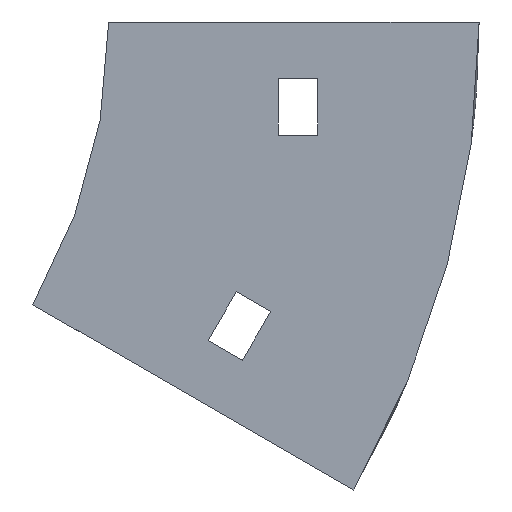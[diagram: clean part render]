
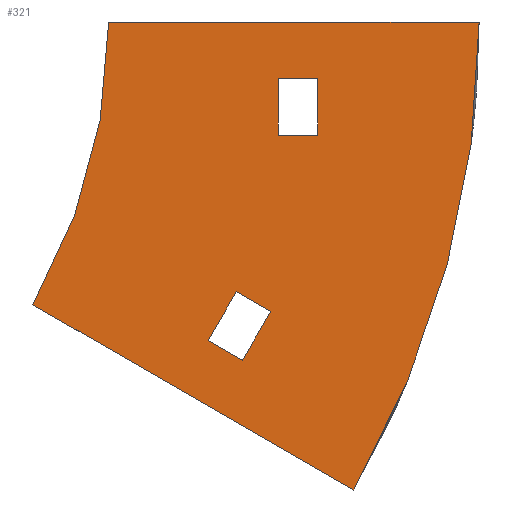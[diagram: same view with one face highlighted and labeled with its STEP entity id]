
A CAD part, left-side view. The second image highlights one B-rep face of the part: STEP entity #321.
In plain terms, the highlighted planar face has unit normal (-1, 0, 0).
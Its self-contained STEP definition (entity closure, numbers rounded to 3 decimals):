
#1 = CARTESIAN_POINT ( 'NONE',  ( -77., -37., -10. ) ) ;
#2 = CARTESIAN_POINT ( 'NONE',  ( -77., -30., -10. ) ) ;
#29 = ORIENTED_EDGE ( 'NONE', *, *, #45, .T. ) ;
#31 = CIRCLE ( 'NONE', #684, 100. ) ;
#40 = DIRECTION ( 'NONE',  ( 0., 0.866, 0.5 ) ) ;
#45 = EDGE_CURVE ( 'NONE', #161, #870, #975, .T. ) ;
#72 = CARTESIAN_POINT ( 'NONE',  ( -77., -65.5, 0. ) ) ;
#77 = CARTESIAN_POINT ( 'NONE',  ( -77., -30., -20. ) ) ;
#90 = DIRECTION ( 'NONE',  ( 0., 0., -1. ) ) ;
#103 = CARTESIAN_POINT ( 'NONE',  ( -77., -28.645, -51.179 ) ) ;
#115 = DIRECTION ( 'NONE',  ( 0., -1., 0. ) ) ;
#129 = VECTOR ( 'NONE', #1100, 1000. ) ;
#144 = LINE ( 'NONE', #500, #860 ) ;
#161 = VERTEX_POINT ( 'NONE', #213 ) ;
#171 = DIRECTION ( 'NONE',  ( 0., 0., -1. ) ) ;
#193 = ORIENTED_EDGE ( 'NONE', *, *, #655, .F. ) ;
#200 = VECTOR ( 'NONE', #115, 1000. ) ;
#211 = DIRECTION ( 'NONE',  ( 0., 0., -1. ) ) ;
#213 = CARTESIAN_POINT ( 'NONE',  ( -77., -37., -10. ) ) ;
#219 = LINE ( 'NONE', #849, #908 ) ;
#230 = ORIENTED_EDGE ( 'NONE', *, *, #905, .T. ) ;
#257 = CARTESIAN_POINT ( 'NONE',  ( -77., 13.397, -50. ) ) ;
#263 = DIRECTION ( 'NONE',  ( 0., -0.866, -0.5 ) ) ;
#266 = ORIENTED_EDGE ( 'NONE', *, *, #622, .F. ) ;
#273 = VERTEX_POINT ( 'NONE', #103 ) ;
#292 = CARTESIAN_POINT ( 'NONE',  ( -77., 13.397, -50. ) ) ;
#299 = FACE_OUTER_BOUND ( 'NONE', #746, .T. ) ;
#306 = EDGE_CURVE ( 'NONE', #531, #161, #911, .T. ) ;
#308 = LINE ( 'NONE', #739, #200 ) ;
#311 = CARTESIAN_POINT ( 'NONE',  ( -77., -23.645, -59.84 ) ) ;
#316 = DIRECTION ( 'NONE',  ( 0., -1., 0. ) ) ;
#317 = EDGE_CURVE ( 'NONE', #972, #273, #381, .T. ) ;
#321 = ADVANCED_FACE ( 'NONE', ( #299, #399, #645 ), #818, .F. ) ;
#326 = VECTOR ( 'NONE', #1077, 1000. ) ;
#333 = CARTESIAN_POINT ( 'NONE',  ( -77., -17.583, -56.34 ) ) ;
#340 = VECTOR ( 'NONE', #777, 1000. ) ;
#381 = LINE ( 'NONE', #718, #326 ) ;
#382 = EDGE_CURVE ( 'NONE', #895, #543, #1131, .T. ) ;
#399 = FACE_BOUND ( 'NONE', #618, .T. ) ;
#435 = EDGE_CURVE ( 'NONE', #887, #827, #31, .T. ) ;
#457 = VERTEX_POINT ( 'NONE', #77 ) ;
#475 = CARTESIAN_POINT ( 'NONE',  ( -77., -30., -10. ) ) ;
#484 = CARTESIAN_POINT ( 'NONE',  ( -77., -43.327, -82.75 ) ) ;
#496 = CARTESIAN_POINT ( 'NONE',  ( -77., -22.583, -47.679 ) ) ;
#500 = CARTESIAN_POINT ( 'NONE',  ( -77., -17.583, -56.34 ) ) ;
#501 = ORIENTED_EDGE ( 'NONE', *, *, #382, .F. ) ;
#531 = VERTEX_POINT ( 'NONE', #2 ) ;
#543 = VERTEX_POINT ( 'NONE', #1084 ) ;
#551 = VECTOR ( 'NONE', #1096, 1000. ) ;
#571 = CARTESIAN_POINT ( 'NONE',  ( -77., 100., 0. ) ) ;
#614 = DIRECTION ( 'NONE',  ( -1., 0., 0. ) ) ;
#618 = EDGE_LOOP ( 'NONE', ( #230, #1064, #29, #703 ) ) ;
#622 = EDGE_CURVE ( 'NONE', #543, #972, #144, .T. ) ;
#643 = ORIENTED_EDGE ( 'NONE', *, *, #317, .F. ) ;
#645 = FACE_BOUND ( 'NONE', #1000, .T. ) ;
#655 = EDGE_CURVE ( 'NONE', #1103, #887, #670, .T. ) ;
#670 = LINE ( 'NONE', #257, #129 ) ;
#674 = CIRCLE ( 'NONE', #828, 165.5 ) ;
#676 = ORIENTED_EDGE ( 'NONE', *, *, #1061, .F. ) ;
#684 = AXIS2_PLACEMENT_3D ( 'NONE', #705, #614, #171 ) ;
#692 = VECTOR ( 'NONE', #40, 1000. ) ;
#703 = ORIENTED_EDGE ( 'NONE', *, *, #974, .T. ) ;
#705 = CARTESIAN_POINT ( 'NONE',  ( -77., 100., 0. ) ) ;
#707 = CARTESIAN_POINT ( 'NONE',  ( -77., -37., -20. ) ) ;
#718 = CARTESIAN_POINT ( 'NONE',  ( -77., -23.645, -59.84 ) ) ;
#731 = EDGE_CURVE ( 'NONE', #273, #895, #1010, .T. ) ;
#738 = CARTESIAN_POINT ( 'NONE',  ( -77., 100., 0. ) ) ;
#739 = CARTESIAN_POINT ( 'NONE',  ( -77., -65.5, 0. ) ) ;
#744 = DIRECTION ( 'NONE',  ( 1., 0., 0. ) ) ;
#746 = EDGE_LOOP ( 'NONE', ( #927, #193, #1150, #676 ) ) ;
#762 = EDGE_CURVE ( 'NONE', #810, #1103, #674, .T. ) ;
#763 = CARTESIAN_POINT ( 'NONE',  ( -77., 0., 0. ) ) ;
#764 = DIRECTION ( 'NONE',  ( 0., 0., -1. ) ) ;
#777 = DIRECTION ( 'NONE',  ( 0., 0.5, -0.866 ) ) ;
#798 = LINE ( 'NONE', #843, #551 ) ;
#806 = VECTOR ( 'NONE', #316, 1000. ) ;
#810 = VERTEX_POINT ( 'NONE', #72 ) ;
#818 = PLANE ( 'NONE',  #954 ) ;
#820 = VECTOR ( 'NONE', #90, 1000. ) ;
#827 = VERTEX_POINT ( 'NONE', #763 ) ;
#828 = AXIS2_PLACEMENT_3D ( 'NONE', #738, #744, #764 ) ;
#843 = CARTESIAN_POINT ( 'NONE',  ( -77., -30., -10. ) ) ;
#849 = CARTESIAN_POINT ( 'NONE',  ( -77., -30., -20. ) ) ;
#860 = VECTOR ( 'NONE', #263, 1000. ) ;
#870 = VERTEX_POINT ( 'NONE', #707 ) ;
#887 = VERTEX_POINT ( 'NONE', #292 ) ;
#892 = CARTESIAN_POINT ( 'NONE',  ( -77., -22.583, -47.679 ) ) ;
#895 = VERTEX_POINT ( 'NONE', #892 ) ;
#905 = EDGE_CURVE ( 'NONE', #457, #531, #798, .T. ) ;
#908 = VECTOR ( 'NONE', #997, 1000. ) ;
#911 = LINE ( 'NONE', #475, #806 ) ;
#927 = ORIENTED_EDGE ( 'NONE', *, *, #435, .F. ) ;
#954 = AXIS2_PLACEMENT_3D ( 'NONE', #571, #985, #211 ) ;
#972 = VERTEX_POINT ( 'NONE', #311 ) ;
#974 = EDGE_CURVE ( 'NONE', #870, #457, #219, .T. ) ;
#975 = LINE ( 'NONE', #1, #820 ) ;
#985 = DIRECTION ( 'NONE',  ( 1., 0., 0. ) ) ;
#997 = DIRECTION ( 'NONE',  ( 0., 1., 0. ) ) ;
#1000 = EDGE_LOOP ( 'NONE', ( #266, #501, #1035, #643 ) ) ;
#1010 = LINE ( 'NONE', #496, #692 ) ;
#1035 = ORIENTED_EDGE ( 'NONE', *, *, #731, .F. ) ;
#1061 = EDGE_CURVE ( 'NONE', #827, #810, #308, .T. ) ;
#1064 = ORIENTED_EDGE ( 'NONE', *, *, #306, .T. ) ;
#1077 = DIRECTION ( 'NONE',  ( 0., -0.5, 0.866 ) ) ;
#1084 = CARTESIAN_POINT ( 'NONE',  ( -77., -17.583, -56.34 ) ) ;
#1096 = DIRECTION ( 'NONE',  ( 0., 0., 1. ) ) ;
#1100 = DIRECTION ( 'NONE',  ( 0., 0.866, 0.5 ) ) ;
#1103 = VERTEX_POINT ( 'NONE', #484 ) ;
#1131 = LINE ( 'NONE', #333, #340 ) ;
#1150 = ORIENTED_EDGE ( 'NONE', *, *, #762, .F. ) ;
